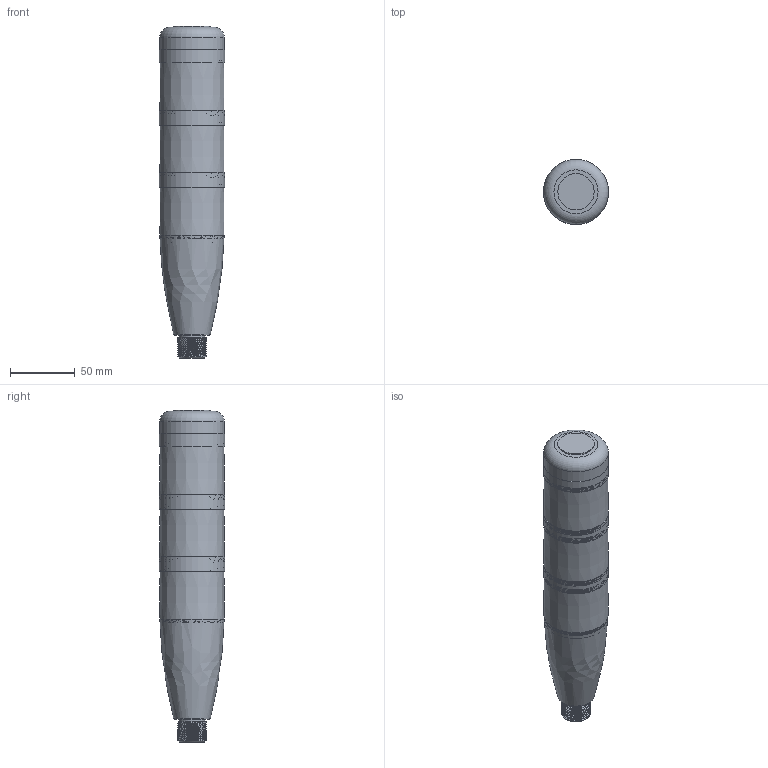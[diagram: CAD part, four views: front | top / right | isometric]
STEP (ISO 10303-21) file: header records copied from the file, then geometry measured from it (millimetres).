
FILE_DESCRIPTION(/* description */ (''),/* implementation_level */ '2;1');
FILE_NAME(/* name */ 'OLE3-301 常亮.stp',/* time_stamp */ '2022-12-13T18:21:24+08:00',/* author */ (''),/* organization */ (''),/* preprocessor_version */ 'ST-DEVELOPER v16.7',/* originating_system */ 'SIEMENS PLM Software NX 12.0',/* authorisation */ '');
FILE_SCHEMA (('AUTOMOTIVE_DESIGN { 1 0 10303 214 3 1 1 1 }'));
Length unit declared in the file: millimetre
Products named in the file (1): Admi15EC76A1t4uz
Bounding box: 50.3 x 50.3 x 256.5 mm (x, y, z)
Volume: 83619.8 mm3; surface area: 107055.8 mm2
Topology: 8 solids, 10 shells, 1265 faces, 3661 edges, 2439 vertices
Faces by surface type: plane 782, cylinder 421, bspline 47, cone 13, torus 2
Full cylindrical faces by diameter (mm): 18 x2, 20 x1, 28 x1, 32 x3, 39 x3, 42 x1, 43 x3, 44 x3, 46.3 x6, 47 x1, 48.1 x1, 50 x1, 50.3 x3
Entity records: 62612 total; most frequent: CARTESIAN_POINT 28965, ORIENTED_EDGE 7166, DIRECTION 7013, EDGE_CURVE 3583, VERTEX_POINT 2403, AXIS2_PLACEMENT_3D 2399, LINE 2215, VECTOR 2215
